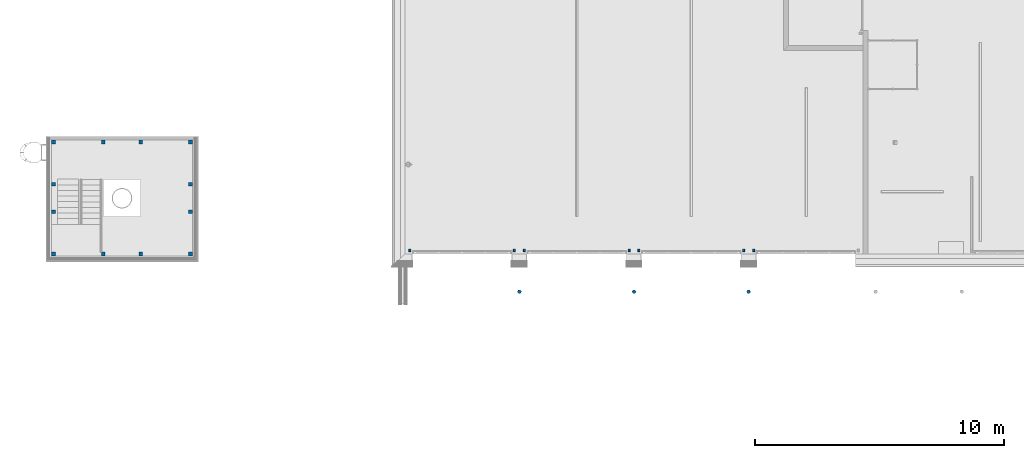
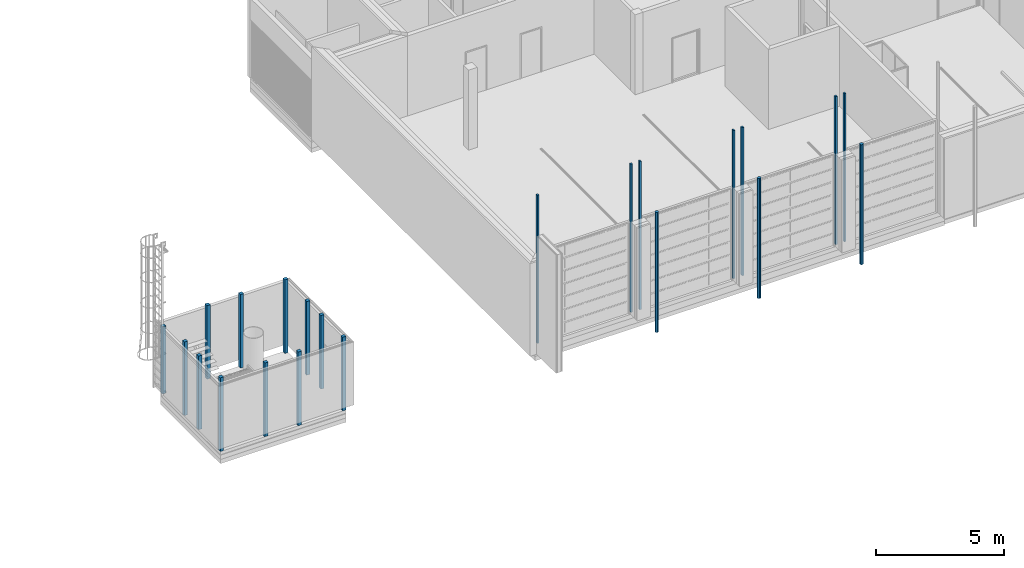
# One storey, part 2 of 112: 22 columns.
"""IFC2X3 building model written with IfcOpenShell, lengths in millimetres."""

from ifc_helpers import new_model, entity, si_unit, converted_unit, derived_unit, money_unit, direction, frame, origin_with_axes, origin_2d_with_axis, place, context, subcontext, project, spatial, rectangle, circle, extrude, material, type_object, element, save


model = new_model("IFC2X3")

# Units and contexts
model_context = context("Model", 3, precision=0.01, world=origin_with_axes(), true_north=direction((0.0, 1.0)))
body_context = subcontext(model_context, "Body", "Model", "MODEL_VIEW")
ifc_project = project(units=[si_unit("LENGTHUNIT", "METRE", prefix="MILLI"), si_unit("AREAUNIT", "SQUARE_METRE"), si_unit("VOLUMEUNIT", "CUBIC_METRE"), converted_unit("PLANEANGLEUNIT", "DEGREE", entity("IfcPlaneAngleMeasure", 0.0174532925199), si_unit("PLANEANGLEUNIT", "RADIAN"), dimensions=[0, 0, 0, 0, 0, 0, 0]), si_unit("SOLIDANGLEUNIT", "STERADIAN"), money_unit("EUR"), converted_unit("TIMEUNIT", "Year", entity("IfcTimeMeasure", 31556926.0), si_unit("TIMEUNIT", "SECOND"), dimensions=[0, 0, 1, 0, 0, 0, 0]), si_unit("MASSUNIT", "GRAM", prefix="KILO"), si_unit("THERMODYNAMICTEMPERATUREUNIT", "DEGREE_CELSIUS"), si_unit("LUMINOUSINTENSITYUNIT", "LUMEN"), si_unit("ENERGYUNIT", "JOULE", prefix="MEGA"), derived_unit("THERMALCONDUCTANCEUNIT", [(si_unit("POWERUNIT", "WATT"), 1), (si_unit("LENGTHUNIT", "METRE"), -1), (si_unit("THERMODYNAMICTEMPERATUREUNIT", "KELVIN"), -1)]), derived_unit("SPECIFICHEATCAPACITYUNIT", [(si_unit("ENERGYUNIT", "JOULE"), 1), (si_unit("MASSUNIT", "GRAM", prefix="KILO"), -1), (si_unit("THERMODYNAMICTEMPERATUREUNIT", "KELVIN"), -1)]), derived_unit("MASSDENSITYUNIT", [(si_unit("MASSUNIT", "GRAM", prefix="KILO"), 1), (si_unit("VOLUMEUNIT", "CUBIC_METRE"), -1)])], contexts=[model_context])

# Site, building, storey
site_placement = place(None, origin_with_axes())
site = spatial("IfcSite", under=ifc_project, at=site_placement, Name="Politse- ja Piirivalveameti ning Päästeameti ühishoone", CompositionType="ELEMENT")
building_placement = place(site_placement, origin_with_axes())
building = spatial("IfcBuilding", under=site, at=building_placement, Name="Politse- ja Piirivalveameti ning Päästeameti ühishoone", CompositionType="ELEMENT")
storey_placement = place(building_placement, origin_with_axes())
storey = spatial("IfcBuildingStorey", under=building, at=storey_placement, Name="Esimene korrus", CompositionType="ELEMENT", Elevation=0.0)

# Columns
ifc_material = material(Name="KON-00_GENEERILINE - KONSTRUKTSIOON")
column_type_1 = type_object("IfcColumnType", Name="KON-00_GENEERILINE - KONSTRUKTSIOON 150 x 150", PredefinedType="COLUMN")
for number, where, z_axis, x_axis, name in (
    (1, (-14107.0, 0.0, 0.0), (0.0, 0.0, 1.0), (0.0, 1.0, 0.0), "POST"),
    (2, (-10607.0326897, 0.0, 0.0), (0.0, 0.0, 1.0), (0.0, 1.0, 0.0), "POST"),
    (3, (-8607.0, 0.0, 0.0), (0.0, 0.0, 1.0), (0.0, 1.0, 0.0), "POST"),
    (4, (-8607.0, 4500.4616888, 0.0), (0.0, 0.0, 1.0), (0.0, 1.0, 0.0), "POST"),
):
    element("IfcColumn", number, at=place(storey_placement, frame(where, z_axis=z_axis, x_axis=x_axis)), inside=storey, type_object=column_type_1, material=ifc_material, Name=name, ObjectType="COLUMN", context=body_context, shape_type="SweptSolid", body=[
        extrude(rectangle(XDim=150.0, YDim=150.0, at=origin_2d_with_axis()), origin_with_axes(), (0.0, 0.0, 1.0), 3500.0),
    ])
column_placement = place(storey_placement, frame((-14107.0, 4500.4616888, 0.0), z_axis=(0.0, 0.0, 1.0), x_axis=(0.0, 1.0, 0.0)))
element("IfcColumn", 5, at=column_placement, inside=storey, type_object=column_type_1, material=ifc_material, Name="POST", ObjectType="COLUMN", context=body_context, shape_type="SweptSolid", body=[
    extrude(rectangle(XDim=150.0, YDim=150.0, at=origin_2d_with_axis()), origin_with_axes(), (0.0, 0.0, 1.0), 3200.0),
])
for number, where, z_axis, x_axis, name in (
    (6, (-8607.0, 2800.11493577, 0.0), (0.0, 0.0, 1.0), (0.0, 1.0, 0.0), "POST"),
    (7, (-8607.0, 1700.11493577, 0.0), (0.0, 0.0, 1.0), (0.0, 1.0, 0.0), "POST"),
    (8, (-14107.0, 2800.11493577, 0.0), (0.0, 0.0, 1.0), (0.0, 1.0, 0.0), "POST"),
    (9, (-14107.0, 1700.11493577, 0.0), (0.0, 0.0, 1.0), (0.0, 1.0, 0.0), "POST"),
    (10, (-12107.0326897, 0.0, 0.0), (0.0, 0.0, 1.0), (0.0, 1.0, 0.0), "POST"),
    (11, (-10607.0326897, 4500.4616888, 0.0), (0.0, 0.0, 1.0), (0.0, 1.0, 0.0), "POST"),
    (12, (-12107.0326897, 4500.4616888, 0.0), (0.0, 0.0, 1.0), (0.0, 1.0, 0.0), "POST"),
):
    element("IfcColumn", number, at=place(storey_placement, frame(where, z_axis=z_axis, x_axis=x_axis)), inside=storey, type_object=column_type_1, material=ifc_material, Name=name, ObjectType="COLUMN", context=body_context, shape_type="SweptSolid", body=[
        extrude(rectangle(XDim=150.0, YDim=150.0, at=origin_2d_with_axis()), origin_with_axes(), (0.0, 0.0, 1.0), 3500.0),
    ])
column_type_2 = type_object("IfcColumnType", Name="KON-00_GENEERILINE - KONSTRUKTSIOON D150", PredefinedType="COLUMN")
for number, where, z_axis, x_axis, name in (
    (13, (13800.0196882, -1510.44069478, 0.0), (0.0, 0.0, 1.0), (1.0, 0.0, 0.0), "POST"),
    (14, (9200.01335798, -1510.44069478, 0.0), (0.0, 0.0, 1.0), (1.0, 0.0, 0.0), "POST"),
    (15, (4600.00702778, -1510.44069478, 0.0), (0.0, 0.0, 1.0), (1.0, 0.0, 0.0), "POST"),
):
    element("IfcColumn", number, at=place(storey_placement, frame(where, z_axis=z_axis, x_axis=x_axis)), inside=storey, type_object=column_type_2, material=ifc_material, Name=name, ObjectType="COLUMN", context=body_context, shape_type="SweptSolid", body=[
        extrude(circle(Radius=75.0, at=origin_2d_with_axis()), origin_with_axes(), (0.0, 0.0, 1.0), 5700.0),
    ])
column_type_3 = type_object("IfcColumnType", Name="KON-00_GENEERILINE - KONSTRUKTSIOON 80 x 100", PredefinedType="COLUMN")
for number, where, z_axis, x_axis, name in (
    (16, (199.757872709, 146.588164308, 0.0), (0.0, 0.0, 1.0), (1.0, 0.0, 0.0), "POST"),
    (17, (4399.34846005, 146.588164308, 0.0), (0.0, 0.0, 1.0), (1.0, 0.0, 0.0), "POST"),
    (18, (4800.66559551, 146.588164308, 0.0), (0.0, 0.0, 1.0), (1.0, 0.0, 0.0), "POST"),
    (19, (9000.16441232, 146.588164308, 0.0), (0.0, 0.0, 1.0), (1.0, 0.0, 0.0), "POST"),
    (20, (9399.48154778, 146.588164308, 0.0), (0.0, 0.0, 1.0), (1.0, 0.0, 0.0), "POST"),
    (21, (13599.3611204, 146.588164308, 0.0), (0.0, 0.0, 1.0), (1.0, 0.0, 0.0), "POST"),
    (22, (13999.6782559, 146.588164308, 0.0), (0.0, 0.0, 1.0), (1.0, 0.0, 0.0), "POST"),
):
    element("IfcColumn", number, at=place(storey_placement, frame(where, z_axis=z_axis, x_axis=x_axis)), inside=storey, type_object=column_type_3, material=ifc_material, Name=name, ObjectType="COLUMN", context=body_context, shape_type="SweptSolid", body=[
        extrude(rectangle(XDim=80.0, YDim=100.0, at=origin_2d_with_axis()), origin_with_axes(), (0.0, 0.0, 1.0), 7040.0),
    ])

save(model, "model.ifc")
